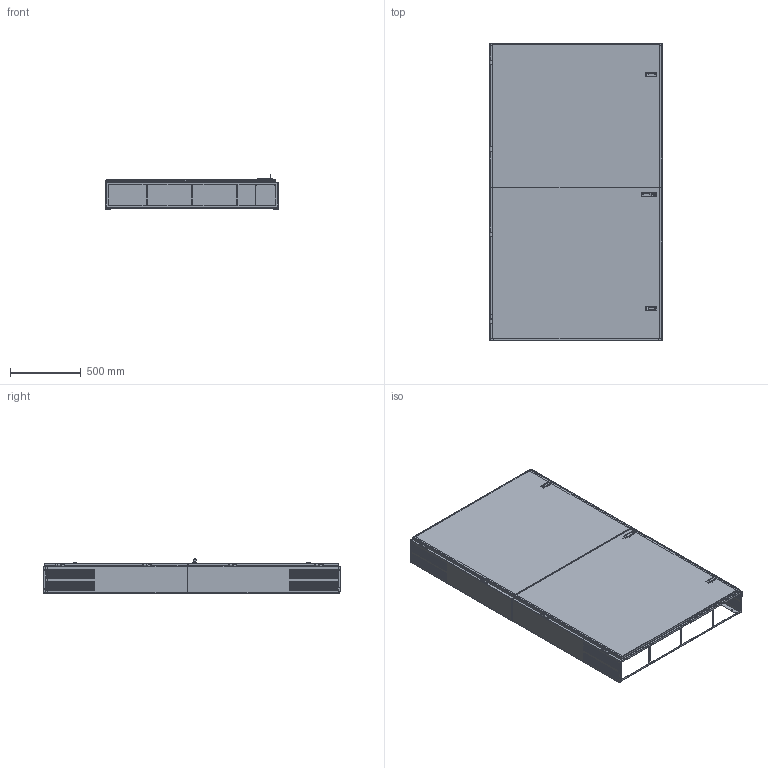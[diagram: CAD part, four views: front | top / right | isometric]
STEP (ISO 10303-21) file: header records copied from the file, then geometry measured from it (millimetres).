
FILE_DESCRIPTION (( 'STEP AP214' ), '1' );
FILE_NAME ('QSP5.STEP', '2016-07-28T13:53:09', ( 'BMC' ), ( 'Bard Manufacturing Co., Inc.' ), 'SwSTEP 2.0', 'SolidWorks 2016', '' );
FILE_SCHEMA (( 'AUTOMOTIVE_DESIGN' ));
Length unit declared in the file: inch
Products named in the file (34): 1171-048b; 1171-049j; 1171-048a; 1171-049i; 152-380; 1171-049h; DP-058-014; 1171-049g; dp-058-013; 1171-049f; DP-058-011; 1171-049e; DP-058-010; 1171-049d; 5400-005, male hinge; 1171-049c; 1012-150; 1171-049b; 506-238; 1171-049a; 5021-1101_uncompressed; QSE48 lower door; 106-239; 152-381; 126-338; QSE48 upper door; 5400-005 female hinge; QSP5; 1171-048, non locking door latch; 1171-048f; 1171-048e; 1171-048d; 1171-048c; 1171-049, locking door latch
Assembly tree (51 placements, depth 4):
  QSP5
    126-338
    506-238
      106-239
      5021-1101_uncompressed
    1012-150  x8
    5400-005, male hinge  x4
    DP-058-010
    DP-058-011
    dp-058-013
    DP-058-014
    QSE48 upper door
      152-380
      1171-048, non locking door latch
        1171-048a
        1171-048b
        1171-048c
        1171-048d
        1171-048e
        1171-048f
      5400-005 female hinge  x2
      1012-150  x2
    QSE48 lower door
      152-381
      1171-048, non locking door latch
        1171-048a
        1171-048b
        1171-048c
        1171-048d
        1171-048e
        1171-048f
      5400-005 female hinge  x2
      1012-150  x2
    1171-049, locking door latch
      1171-049a
      1171-049b
      1171-049c
      1171-049d
      1171-049e
      1171-049f
      1171-049g
      1171-049h
      1171-049i
      1171-049j
Bounding box: 1215.3 x 2095.5 x 243.34 mm (x, y, z)
Surface area: 8773143.2 mm2 (no closed solid volume)
Topology: 0 solids, 51 shells, 4105 faces, 10072 edges, 6120 vertices
Faces by surface type: cone 1866, plane 1789, cylinder 395, bspline 32, sphere 17, torus 6
Entity records: 82173 total; most frequent: CARTESIAN_POINT 15755, ORIENTED_EDGE 13382, DIRECTION 13376, EDGE_CURVE 6691, LINE 5100, VECTOR 5100, VERTEX_POINT 4152, AXIS2_PLACEMENT_3D 4138
